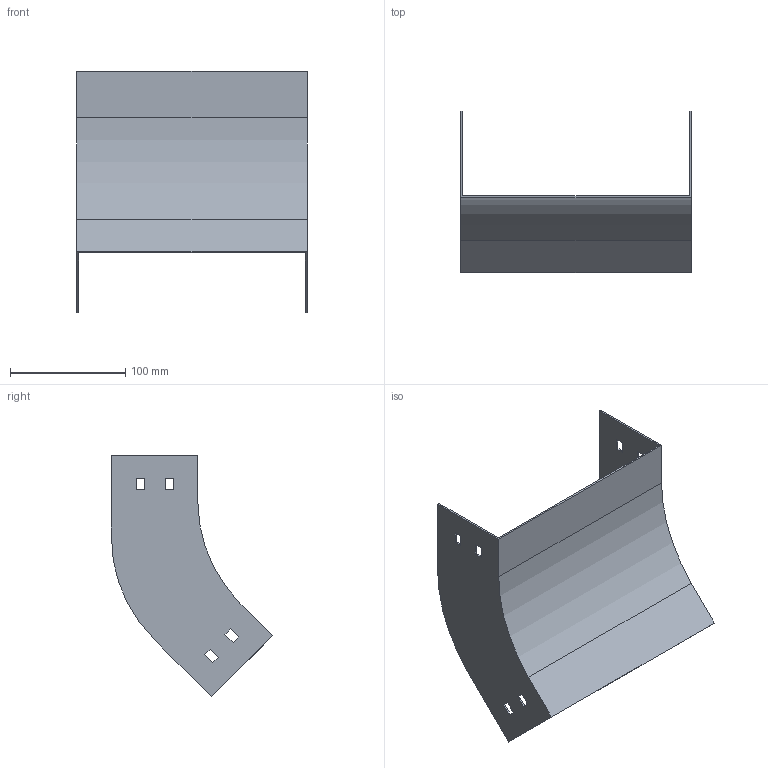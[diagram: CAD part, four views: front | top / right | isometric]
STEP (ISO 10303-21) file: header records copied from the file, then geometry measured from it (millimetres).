
FILE_DESCRIPTION (( 'STEP AP214' ), '1' );
FILE_NAME ('D4_207.step', '2025-07-16T09:07:16', ( '' ), ( '' ), 'SwSTEP 2.0', 'SolidWorks 2023', '' );
FILE_SCHEMA (( 'AUTOMOTIVE_DESIGN' ));
Length unit declared in the file: millimetre
Products named in the file (1): D4_207
Bounding box: 200 x 139.9 x 209.71 mm (x, y, z)
Volume: 100274.1 mm3; surface area: 135866.9 mm2
Topology: 1 solids, 1 shells, 50 faces, 144 edges, 96 vertices
Faces by surface type: plane 46, cylinder 4
Entity records: 1671 total; most frequent: CARTESIAN_POINT 291, ORIENTED_EDGE 288, DIRECTION 254, EDGE_CURVE 144, VECTOR 136, LINE 136, VERTEX_POINT 96, EDGE_LOOP 66
